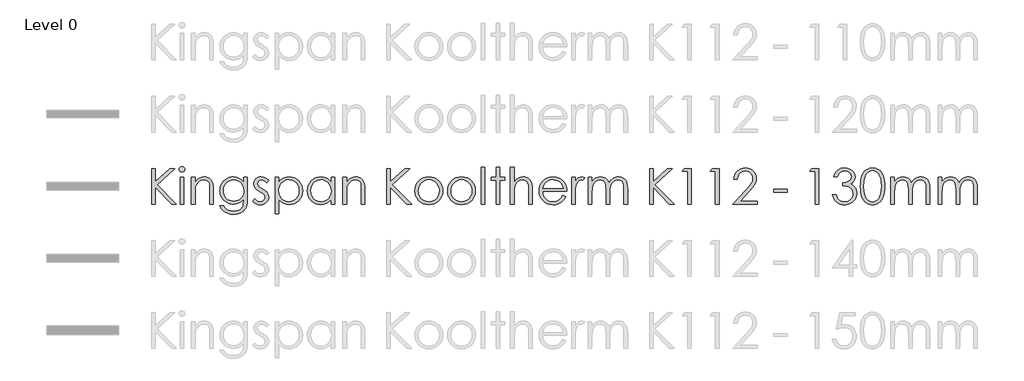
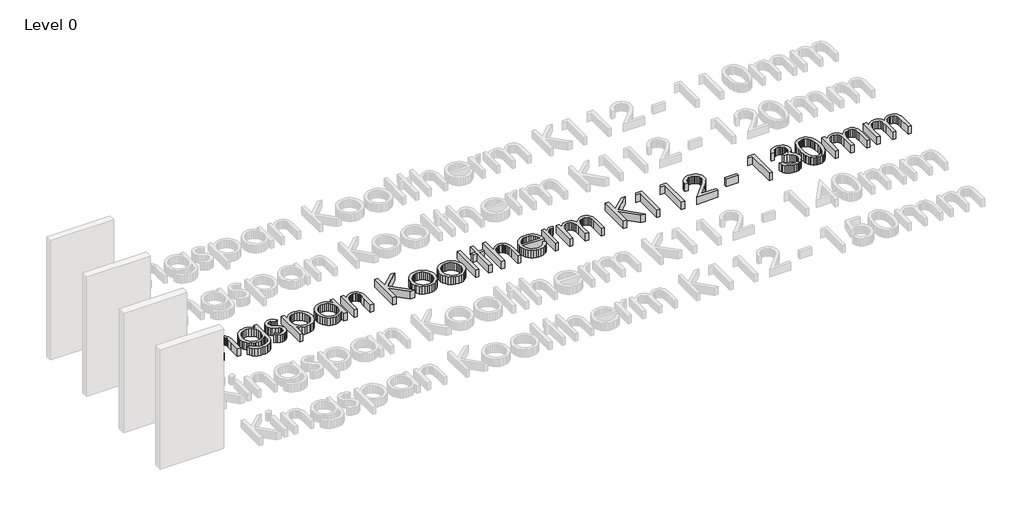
# One storey, part 3 of 14: 1 proxy.
"""IFC4 building model written with IfcOpenShell, lengths in millimetres."""

from ifc_helpers import new_model, si_unit, origin, origin_with_axes, place, context, project, spatial, polyline, outline, extrude, element, save

model = new_model("IFC4")

# Units and contexts
model_context = context("Model", 3, world=origin())
ifc_project = project(units=[si_unit("LENGTHUNIT", "METRE", prefix="MILLI")], contexts=[model_context])

# Site, building, storey
site = spatial("IfcSite", under=ifc_project)
building = spatial("IfcBuilding", under=site)
storey = spatial("IfcBuildingStorey", under=building, Name="Level 0", Elevation=0.0)

# Proxy
placement = place(None, origin())
element("IfcBuildingElementProxy", 1, Name="600mm KI_CenturyGothic", ObjectType="600mm KI_CenturyGothic", at=placement, inside=storey, context=model_context, shape_type="SweptSolid", body=[
    extrude(outline(polyline([(-3852.2663848, -7299.1034017), (-3792.944575, -7299.1034017), (-3792.944575, -7518.316027), (-3555.1938841, -7299.1034017), (-3471.6181051, -7299.1034017), (-3760.9664119, -7566.0515459), (-3441.9572002, -7892.3214999), (-3520.8984627, -7892.3214999), (-3792.944575, -7614.0960325), (-3792.944575, -7892.3214999), (-3852.2663848, -7892.3214999), (-3852.2663848, -7299.1034017)])), origin_with_axes(), (0.0, 0.0, 1.0), 150.0),
    extrude(outline(polyline([(-3348.1854852, -7269.4424967), (-3329.145347, -7272.7252792), (-3313.1176445, -7282.5736265), (-3302.226531, -7297.0178693), (-3298.5961598, -7314.088338), (-3302.226531, -7330.9270809), (-3313.1176445, -7345.2940817), (-3329.145347, -7355.142429), (-3348.1854852, -7358.4252115), (-3366.9938975, -7355.142429), (-3382.9443581, -7345.2940817), (-3393.8354717, -7330.9270809), (-3397.4658428, -7314.088338), (-3393.8354717, -7297.0178693), (-3382.9443581, -7282.5736265), (-3366.9938975, -7272.7252792), (-3348.1854852, -7269.4424967)])), origin_with_axes(), (0.0, 0.0, 1.0), 150.0),
    extrude(outline(polyline([(-3377.6919062, -7447.4079262), (-3318.3700964, -7447.4079262), (-3318.3700964, -7892.3214999), (-3377.6919062, -7892.3214999), (-3377.6919062, -7447.4079262)])), origin_with_axes(), (0.0, 0.0, 1.0), 150.0),
    extrude(outline(polyline([(-3189.8395084, -7447.4079262), (-3130.5176986, -7447.4079262), (-3130.5176986, -7526.5036726), (-3096.9946967, -7486.9944204), (-3060.0730495, -7459.303185), (-3019.7141359, -7442.9665147), (-2975.879335, -7437.5209579), (-2953.4357238, -7439.0995901), (-2932.2955704, -7443.8354865), (-2912.4588747, -7451.7286472), (-2893.9256368, -7462.7790723), (-2877.212412, -7476.5039994), (-2862.835756, -7492.4206667), (-2841.0921499, -7530.8292213), (-2833.6238199, -7555.2087086), (-2828.2892984, -7585.5551357), (-2824.0216812, -7664.1488095), (-2824.0216812, -7892.3214999), (-2883.343491, -7892.3214999), (-2883.343491, -7679.1337458), (-2883.343491, -7576.092998), (-2884.7290183, -7555.2956057), (-2889.8125035, -7537.2403023), (-2898.2849788, -7521.9270877), (-2910.1464442, -7509.355962), (-2924.7403432, -7499.5558909), (-2941.4101193, -7492.5558401), (-2980.977303, -7486.9557994), (-3005.3471351, -7489.1137461), (-3028.4038541, -7495.5875862), (-3050.1474602, -7506.3773197), (-3070.5779533, -7521.4829466), (-3088.6622225, -7539.7651482), (-3103.3671568, -7560.084606), (-3114.6927562, -7582.44132), (-3122.6390208, -7606.8352901), (-3128.5480292, -7653.9142525), (-3130.5176986, -7728.4141035), (-3130.5176986, -7892.3214999), (-3189.8395084, -7892.3214999), (-3189.8395084, -7447.4079262)])), origin_with_axes(), (0.0, 0.0, 1.0), 150.0),
    extrude(outline(polyline([(-2319.7862977, -7447.4079262), (-2260.4644879, -7447.4079262), (-2260.4644879, -7798.395301), (-2264.5196897, -7878.6496765), (-2269.588692, -7909.4499001), (-2276.6852953, -7934.0321474), (-2289.9371156, -7962.6454585), (-2307.2924139, -7987.7732271), (-2328.7511904, -8009.4154531), (-2354.3134448, -8027.5721366), (-2383.3226209, -8041.9343098), (-2415.122162, -8052.1930049), (-2449.7120682, -8058.348222), (-2487.0923395, -8060.3999611), (-2541.0458345, -8056.3833802), (-2589.206184, -8044.3336376), (-2630.260275, -8025.5059147), (-2662.8949946, -8001.1553932), (-2690.2000204, -7967.8061856), (-2715.2650299, -7921.9824048), (-2655.94322, -7921.9824048), (-2642.4355358, -7943.151524), (-2627.0933555, -7961.3951046), (-2609.9166791, -7976.7131468), (-2590.9055067, -7989.1056506), (-2569.7894914, -7998.6691682), (-2546.2982864, -8005.5002523), (-2492.1903075, -8010.9651195), (-2438.5071593, -8005.6354257), (-2415.083541, -7998.9733084), (-2393.93856, -7989.6463441), (-2359.6624492, -7965.6047903), (-2336.8567664, -7936.1176798), (-2329.3884364, -7917.4782342), (-2324.0539149, -7893.7697863), (-2319.7862977, -7831.1458835), (-2319.7862977, -7808.4367532), (-2354.757586, -7844.2190818), (-2396.6420279, -7870.6165148), (-2443.392712, -7886.8952536), (-2492.9627269, -7892.3214999), (-2522.4063889, -7890.4242447), (-2550.9521133, -7884.7324793), (-2578.5999001, -7875.2462036), (-2605.3497494, -7861.9654175), (-2630.1540674, -7845.4742634), (-2651.9652601, -7826.3568832), (-2670.7833277, -7804.6132772), (-2686.6082702, -7780.2434451), (-2699.1456025, -7753.9280817), (-2708.1008399, -7726.3478816), (-2713.4739824, -7697.5028447), (-2715.2650299, -7667.392971), (-2713.3967404, -7637.1044753), (-2707.7918722, -7607.8780563), (-2698.4504251, -7579.713714), (-2685.3723991, -7552.6114483), (-2668.9971079, -7527.4257483), (-2649.7638648, -7505.0111029), (-2627.67267, -7485.367512), (-2602.7235235, -7468.4949758), (-2575.9833294, -7454.943843), (-2548.5189922, -7445.2644624), (-2520.3305117, -7439.456834), (-2491.4178881, -7437.5209579), (-2444.5320306, -7442.4644421), (-2400.8903346, -7457.2948945), (-2359.6045177, -7483.8661218), (-2319.7862977, -7524.0319306), (-2319.7862977, -7447.4079262)]), holes=[polyline([(-2484.1571458, -7486.9557994), (-2529.0154023, -7492.9806707), (-2570.5908765, -7511.0552847), (-2606.2187212, -7539.7699758), (-2633.2340897, -7577.7150788), (-2650.2659375, -7621.9940208), (-2655.94322, -7669.7102292), (-2653.0080263, -7705.6229036), (-2644.2024452, -7738.2817613), (-2629.5264766, -7767.6868023), (-2608.9801206, -7793.8380266), (-2583.7606272, -7815.296803), (-2555.0652466, -7830.6245004), (-2522.8939786, -7839.8211189), (-2487.2468234, -7842.8866584), (-2451.3244937, -7839.845257), (-2419.1001219, -7830.7210528), (-2390.573708, -7815.5140459), (-2365.7452519, -7794.2242363), (-2345.6382095, -7767.9812872), (-2331.2760363, -7737.9148621), (-2322.6587323, -7704.024961), (-2319.7862977, -7666.3115838), (-2325.0773706, -7617.6105407), (-2340.9505892, -7574.3936754), (-2366.4983608, -7538.1672056), (-2400.8130926, -7510.4373492), (-2440.9982119, -7492.8261869), (-2484.1571458, -7486.9557994)])]), origin_with_axes(), (0.0, 0.0, 1.0), 150.0),
    extrude(outline(polyline([(-1904.5336289, -7498.6965743), (-1940.9918246, -7536.390641), (-1962.9575012, -7514.7628978), (-1984.6721416, -7499.3145098), (-2006.1357456, -7490.045477), (-2027.3483133, -7486.9557994), (-2052.181597, -7491.6289368), (-2073.2300256, -7505.6483489), (-2087.5970264, -7525.8857371), (-2092.3860267, -7549.212803), (-2088.4466878, -7570.7633042), (-2076.628671, -7591.2324183), (-2052.0657341, -7613.400855), (-2010.2006027, -7639.122421), (-1958.3326401, -7671.9888664), (-1939.8428507, -7687.8138088), (-1926.315856, -7703.2332311), (-1909.9791857, -7735.9065716), (-1904.5336289, -7772.4420092), (-1906.9474396, -7798.5884059), (-1914.1888714, -7822.6492701), (-1926.2579245, -7844.624602), (-1943.1545989, -7864.5144015), (-1963.6719892, -7881.0055557), (-1986.6031901, -7892.7849515), (-2011.9482016, -7899.852589), (-2039.7070237, -7902.2084682), (-2077.4397114, -7898.3270607), (-2113.3958344, -7886.6828383), (-2145.4512394, -7868.2027042), (-2171.4817731, -7843.8135617), (-2135.7959969, -7803.3387852), (-2114.0041146, -7824.9665283), (-2091.5749863, -7840.4149163), (-2068.5086121, -7849.6839491), (-2044.8049918, -7852.7736267), (-2013.637869, -7847.1349651), (-1987.4914724, -7830.2189802), (-1969.7644472, -7805.6560434), (-1963.8554388, -7777.0765256), (-1967.7561567, -7753.2860081), (-1979.4583106, -7732.2762005), (-2005.0253927, -7710.5712154), (-2050.2119275, -7683.7682622), (-2099.762632, -7653.1032121), (-2117.441381, -7637.9444814), (-2130.3890611, -7622.9016136), (-2146.3781427, -7590.7689666), (-2151.7078365, -7554.310771), (-2149.5305794, -7530.2643896), (-2142.9988078, -7508.3325063), (-2132.1125219, -7488.5151211), (-2116.8717217, -7470.812234), (-2098.309518, -7456.2473007), (-2077.4590218, -7445.8437769), (-2054.3202332, -7439.6016627), (-2028.8931521, -7437.5209579), (-1997.9481, -7441.3444339), (-1966.9064954, -7452.814862), (-1935.7683384, -7471.9322421), (-1904.5336289, -7498.6965743)])), origin_with_axes(), (0.0, 0.0, 1.0), 150.0),
    extrude(outline(polyline([(-1795.7769776, -7447.4079262), (-1736.4551678, -7447.4079262), (-1736.4551678, -7528.5119631), (-1700.9238754, -7488.2689124), (-1660.4490989, -7459.9211205), (-1614.9922173, -7443.1209986), (-1564.5146096, -7437.5209579), (-1520.0618732, -7441.7596094), (-1478.9305402, -7454.4755637), (-1441.1206107, -7475.668821), (-1406.6320845, -7505.3393811), (-1377.9077381, -7540.9768811), (-1357.3903478, -7580.070958), (-1345.0799137, -7622.6216116), (-1340.9764356, -7668.628842), (-1345.0412927, -7715.5291824), (-1357.235864, -7758.7508754), (-1377.5601494, -7798.293921), (-1406.014149, -7834.1583192), (-1440.2130179, -7863.9302594), (-1477.7719111, -7885.1959309), (-1518.6908288, -7897.9553339), (-1562.9697708, -7902.2084682), (-1612.6170277, -7896.743601), (-1658.0545988, -7880.3489992), (-1699.3211052, -7853.1019049), (-1736.4551678, -7815.07956), (-1736.4551678, -8050.5129928), (-1795.7769776, -8050.5129928), (-1795.7769776, -7447.4079262)]), holes=[polyline([(-1568.5311905, -7486.9557994), (-1602.5852307, -7490.2530647), (-1633.8392507, -7500.1448607), (-1662.2932503, -7516.6311872), (-1687.9472295, -7539.7120444), (-1709.1694525, -7567.6977647), (-1724.3281832, -7598.8986808), (-1733.4234216, -7633.3147926), (-1736.4551678, -7670.9461002), (-1731.048232, -7719.8016272), (-1714.8274246, -7763.4819442), (-1688.5265441, -7800.3263495), (-1652.8793888, -7828.6741414), (-1611.4390881, -7846.7487554), (-1567.7587711, -7852.7736267), (-1525.0632888, -7846.7101344), (-1485.0326535, -7828.5196576), (-1450.2544701, -7799.4187567), (-1423.3163435, -7760.6239924), (-1406.05277, -7715.9588407), (-1400.2982454, -7669.2467775), (-1405.9948385, -7622.3029886), (-1423.0846177, -7577.8695627), (-1449.8103289, -7539.5189395), (-1484.414718, -7510.8235589), (-1524.7157001, -7492.9227393), (-1568.5311905, -7486.9557994)])]), origin_with_axes(), (0.0, 0.0, 1.0), 150.0),
    extrude(outline(polyline([(-807.0801472, -7447.4079262), (-807.0801472, -7892.3214999), (-866.401957, -7892.3214999), (-866.401957, -7816.4699149), (-903.4780882, -7854.3184655), (-944.8797679, -7881.0441767), (-990.4525125, -7896.9173953), (-1040.0418379, -7902.2084682), (-1084.3159523, -7897.9553339), (-1125.2203871, -7885.1959309), (-1162.7551422, -7863.9302594), (-1196.9202178, -7834.1583192), (-1225.340424, -7798.293921), (-1245.6405713, -7758.7508754), (-1257.8206597, -7715.5291824), (-1261.8806892, -7668.628842), (-1257.7820388, -7622.6216116), (-1245.4860875, -7580.070958), (-1224.9928353, -7540.9768811), (-1196.3022822, -7505.3393811), (-1161.8475494, -7475.668821), (-1124.061758, -7454.4755637), (-1082.9449079, -7441.7596094), (-1038.4969991, -7437.5209579), (-987.7490446, -7443.1209986), (-942.0990581, -7459.9211205), (-921.2051134, -7472.6081091), (-901.6242816, -7488.2689124), (-866.401957, -7528.5119631), (-866.401957, -7447.4079262), (-807.0801472, -7447.4079262)]), holes=[polyline([(-1034.3259343, -7486.9557994), (-1078.1414247, -7492.9227393), (-1118.4424068, -7510.8235589), (-1153.0467959, -7539.5189395), (-1179.7725071, -7577.8695627), (-1196.8622863, -7622.3029886), (-1202.5588794, -7669.2467775), (-1196.8043548, -7715.9588407), (-1179.5407813, -7760.6239924), (-1152.6026548, -7799.4187567), (-1117.8244713, -7828.5196576), (-1077.6779731, -7846.7101344), (-1034.6349021, -7852.7736267), (-991.0125165, -7846.7487554), (-949.7460102, -7828.6741414), (-914.2726493, -7800.3263495), (-888.0297002, -7763.4819442), (-871.8088928, -7719.8016272), (-866.401957, -7670.9461002), (-869.4337032, -7633.3147926), (-878.5289416, -7598.8986808), (-893.6876723, -7567.6977647), (-914.9098953, -7539.7120444), (-940.5638746, -7516.6311872), (-969.0178742, -7500.1448607), (-1000.2718941, -7490.2530647), (-1034.3259343, -7486.9557994)])]), origin_with_axes(), (0.0, 0.0, 1.0), 150.0),
    extrude(outline(polyline([(-668.662591, -7447.4079262), (-609.3407811, -7447.4079262), (-609.3407811, -7526.5036726), (-575.8177792, -7486.9944204), (-538.896132, -7459.303185), (-498.5372184, -7442.9665147), (-454.7024175, -7437.5209579), (-432.2588064, -7439.0995901), (-411.1186529, -7443.8354865), (-391.2819572, -7451.7286472), (-372.7487193, -7462.7790723), (-356.0354946, -7476.5039994), (-341.6588385, -7492.4206667), (-319.9152324, -7530.8292213), (-312.4469024, -7555.2087086), (-307.1123809, -7585.5551357), (-302.8447637, -7664.1488095), (-302.8447637, -7892.3214999), (-362.1665735, -7892.3214999), (-362.1665735, -7679.1337458), (-362.1665735, -7576.092998), (-363.5521008, -7555.2956057), (-368.635586, -7537.2403023), (-377.1080613, -7521.9270877), (-388.9695267, -7509.355962), (-403.5634257, -7499.5558909), (-420.2332018, -7492.5558401), (-459.8003855, -7486.9557994), (-484.1702176, -7489.1137461), (-507.2269366, -7495.5875862), (-528.9705427, -7506.3773197), (-549.4010358, -7521.4829466), (-567.485305, -7539.7651482), (-582.1902393, -7560.084606), (-593.5158387, -7582.44132), (-601.4621033, -7606.8352901), (-607.3711117, -7653.9142525), (-609.3407811, -7728.4141035), (-609.3407811, -7892.3214999), (-668.662591, -7892.3214999), (-668.662591, -7447.4079262)])), origin_with_axes(), (0.0, 0.0, 1.0), 150.0),
    extrude(outline(polyline([(62.9730635, -7299.1034017), (122.2948734, -7299.1034017), (122.2948734, -7518.316027), (360.0455643, -7299.1034017), (443.6213432, -7299.1034017), (154.2730365, -7566.0515459), (473.2822481, -7892.3214999), (394.3409856, -7892.3214999), (122.2948734, -7614.0960325), (122.2948734, -7892.3214999), (62.9730635, -7892.3214999), (62.9730635, -7299.1034017)])), origin_with_axes(), (0.0, 0.0, 1.0), 150.0),
    extrude(outline(polyline([(760.1588128, -7437.5209579), (809.4681362, -7442.1458191), (854.3553585, -7456.0204025), (894.8204798, -7479.1447083), (930.8635, -7511.5187363), (957.7630055, -7546.7507161), (976.9769381, -7585.091684), (988.5052976, -7626.54164), (992.3480841, -7671.1005841), (988.283227, -7715.9153921), (976.0886558, -7757.8239721), (955.7643703, -7796.8263241), (927.3103707, -7832.9224481), (892.4742558, -7863.2350819), (853.0036246, -7884.8869632), (808.8984769, -7897.8780919), (760.1588128, -7902.2084682), (711.2839754, -7897.8780919), (667.0822753, -7884.8869632), (627.5537126, -7863.2350819), (592.6982872, -7832.9224481), (564.2442876, -7796.8263241), (543.9200022, -7757.8239721), (531.7254309, -7715.9153921), (527.6605738, -7671.1005841), (531.5033603, -7626.7347449), (543.0317198, -7585.4006518), (562.2456524, -7547.0983049), (589.145158, -7511.8277041), (625.2074886, -7479.3185026), (665.7305413, -7456.0976445), (710.7143161, -7442.1651295), (760.1588128, -7437.5209579)]), holes=[polyline([(760.004329, -7486.9557994), (725.7282181, -7490.3303067), (693.9624704, -7500.4538284), (664.7070856, -7517.3263647), (637.962064, -7540.9479154), (615.6584538, -7569.3584664), (599.7273037, -7600.5980035), (590.1686137, -7634.6665266), (586.9823836, -7671.5640357), (592.7948396, -7719.2995546), (610.2322075, -7763.6364281), (637.5758543, -7801.4270471), (673.1071466, -7829.5238028), (714.6439998, -7846.9611707), (760.004329, -7852.7736267), (805.3646581, -7846.9611707), (846.9015113, -7829.5238028), (882.4328037, -7801.4270471), (909.7764504, -7763.6364281), (927.2138183, -7719.2995546), (933.0262743, -7671.5640357), (929.8255614, -7634.6665266), (920.2234227, -7600.5980035), (904.2198583, -7569.3584664), (881.8148681, -7540.9479154), (854.9974321, -7517.3263647), (825.7565303, -7500.4538284), (794.0921625, -7490.3303067), (760.004329, -7486.9557994)])]), origin_with_axes(), (0.0, 0.0, 1.0), 150.0),
    extrude(outline(polyline([(1303.9420695, -7437.5209579), (1353.2513929, -7442.1458191), (1398.1386152, -7456.0204025), (1438.6037365, -7479.1447083), (1474.6467567, -7511.5187363), (1501.5462622, -7546.7507161), (1520.7601948, -7585.091684), (1532.2885543, -7626.54164), (1536.1313408, -7671.1005841), (1532.0664837, -7715.9153921), (1519.8719125, -7757.8239721), (1499.547627, -7796.8263241), (1471.0936274, -7832.9224481), (1436.2575126, -7863.2350819), (1396.7868813, -7884.8869632), (1352.6817336, -7897.8780919), (1303.9420695, -7902.2084682), (1255.0672321, -7897.8780919), (1210.865532, -7884.8869632), (1171.3369693, -7863.2350819), (1136.4815439, -7832.9224481), (1108.0275443, -7796.8263241), (1087.7032589, -7757.8239721), (1075.5086876, -7715.9153921), (1071.4438305, -7671.1005841), (1075.286617, -7626.7347449), (1086.8149766, -7585.4006518), (1106.0289091, -7547.0983049), (1132.9284147, -7511.8277041), (1168.9907453, -7479.3185026), (1209.5137981, -7456.0976445), (1254.4975728, -7442.1651295), (1303.9420695, -7437.5209579)]), holes=[polyline([(1303.7875857, -7486.9557994), (1269.5114748, -7490.3303067), (1237.7457271, -7500.4538284), (1208.4903423, -7517.3263647), (1181.7453207, -7540.9479154), (1159.4417105, -7569.3584664), (1143.5105604, -7600.5980035), (1133.9518704, -7634.6665266), (1130.7656404, -7671.5640357), (1136.5780963, -7719.2995546), (1154.0154643, -7763.6364281), (1181.359111, -7801.4270471), (1216.8904033, -7829.5238028), (1258.4272565, -7846.9611707), (1303.7875857, -7852.7736267), (1349.1479149, -7846.9611707), (1390.684768, -7829.5238028), (1426.2160604, -7801.4270471), (1453.5597071, -7763.6364281), (1470.997075, -7719.2995546), (1476.809531, -7671.5640357), (1473.6088181, -7634.6665266), (1464.0066795, -7600.5980035), (1448.003115, -7569.3584664), (1425.5981249, -7540.9479154), (1398.7806889, -7517.3263647), (1369.539787, -7500.4538284), (1337.8754193, -7490.3303067), (1303.7875857, -7486.9557994)])]), origin_with_axes(), (0.0, 0.0, 1.0), 150.0),
    extrude(outline(polyline([(1635.0010238, -7279.3294651), (1694.3228337, -7279.3294651), (1694.3228337, -7892.3214999), (1635.0010238, -7892.3214999), (1635.0010238, -7279.3294651)])), origin_with_axes(), (0.0, 0.0, 1.0), 150.0),
    extrude(outline(polyline([(1882.1752314, -7279.3294651), (1941.4970413, -7279.3294651), (1941.4970413, -7447.4079262), (2020.5927877, -7447.4079262), (2020.5927877, -7496.8427677), (1941.4970413, -7496.8427677), (1941.4970413, -7892.3214999), (1882.1752314, -7892.3214999), (1882.1752314, -7496.8427677), (1803.079485, -7496.8427677), (1803.079485, -7447.4079262), (1882.1752314, -7447.4079262), (1882.1752314, -7279.3294651)])), origin_with_axes(), (0.0, 0.0, 1.0), 150.0),
    extrude(outline(polyline([(2119.4624707, -7279.3294651), (2178.7842806, -7279.3294651), (2178.7842806, -7528.0485114), (2212.5583188, -7488.3461544), (2249.6151394, -7460.0756044), (2289.9161216, -7443.1596195), (2333.4226442, -7437.5209579), (2355.8662553, -7439.0995901), (2377.0064088, -7443.8354865), (2396.8431044, -7451.7286472), (2415.3763424, -7462.7790723), (2432.0895671, -7476.4895166), (2446.4662232, -7492.3627352), (2468.2098293, -7530.5974955), (2475.6781593, -7554.9045684), (2481.0126808, -7585.2654784), (2485.280298, -7664.1488095), (2485.280298, -7892.3214999), (2425.9584882, -7892.3214999), (2425.9584882, -7679.1337458), (2424.5681332, -7614.752589), (2420.3970685, -7576.092998), (2406.879729, -7537.2403023), (2397.1665551, -7521.9270877), (2385.4837117, -7509.355962), (2371.840854, -7499.5558909), (2356.2476374, -7492.5558401), (2319.2101273, -7486.9557994), (2296.3416854, -7489.1137461), (2274.6994594, -7495.5875862), (2254.2834492, -7506.3773197), (2235.0936547, -7521.4829466), (2218.1052556, -7539.7651482), (2204.2934312, -7560.084606), (2193.6581816, -7582.44132), (2186.1995068, -7606.8352901), (2180.6380871, -7653.6825267), (2178.7842806, -7728.4141035), (2178.7842806, -7892.3214999), (2119.4624707, -7892.3214999), (2119.4624707, -7279.3294651)])), origin_with_axes(), (0.0, 0.0, 1.0), 150.0),
    extrude(outline(polyline([(2991.0605203, -7744.0169753), (3038.950523, -7769.1978477), (3013.3255094, -7811.0822896), (2984.0315038, -7844.0452875), (2950.952643, -7869.1296074), (2913.9730643, -7887.3780157), (2872.4941426, -7898.5008551), (2825.9172528, -7902.2084682), (2774.4258447, -7897.7767119), (2728.8627554, -7884.481443), (2689.227985, -7862.3226615), (2655.5215335, -7831.3003674), (2628.6220279, -7794.6973431), (2609.4080954, -7755.7963712), (2597.8797358, -7714.5974515), (2594.0369493, -7671.1005841), (2597.3197318, -7630.2202874), (2607.1680791, -7591.618628), (2623.5819913, -7555.2956057), (2646.5614684, -7521.2512207), (2682.7493173, -7484.6192308), (2724.5758277, -7458.4535236), (2772.0409998, -7442.7540993), (2825.1448334, -7437.5209579), (2879.7935059, -7442.8892727), (2928.6490329, -7458.9942172), (2971.7114143, -7485.8357913), (3008.9806503, -7523.4139951), (3030.4539096, -7555.585263), (3045.9022976, -7591.541386), (3055.3258143, -7631.2823641), (3058.7244596, -7674.8081972), (2653.3587591, -7674.8081972), (2657.095338, -7712.0629503), (2666.6057518, -7745.8128504), (2681.8900007, -7776.0578975), (2702.9480845, -7802.7980916), (2728.3124066, -7824.6623882), (2756.5153699, -7840.2797429), (2787.5569744, -7849.6501557), (2821.4372203, -7852.7736267), (2854.9602222, -7849.761191), (2887.5563208, -7840.7238841), (2917.2944677, -7826.6851615), (2942.2436143, -7808.668479), (2965.725164, -7782.5027719), (2991.0605203, -7744.0169753)]), holes=[polyline([(2999.4026498, -7625.3733557), (2984.9777175, -7582.8516678), (2965.1844704, -7549.8307385), (2939.0766947, -7524.3022774), (2905.7081767, -7504.257994), (2867.7630738, -7491.2813481), (2827.9255433, -7486.9557994), (2795.503239, -7489.6689226), (2765.4368139, -7497.808292), (2737.726268, -7511.3739077), (2712.3716012, -7530.3657696), (2695.8321708, -7548.179692), (2681.4362043, -7569.9522638), (2669.1837016, -7595.683485), (2659.0746627, -7625.3733557), (2999.4026498, -7625.3733557)])]), origin_with_axes(), (0.0, 0.0, 1.0), 150.0),
    extrude(outline(polyline([(3137.820206, -7447.4079262), (3197.1420159, -7447.4079262), (3197.1420159, -7511.8277041), (3222.6897875, -7478.7874643), (3249.589293, -7455.6728138), (3277.7632906, -7442.0589219), (3307.1345382, -7437.5209579), (3330.4616041, -7441.305813), (3355.3335087, -7452.6603781), (3325.8270877, -7494.6799934), (3297.2475699, -7486.9557994), (3270.8308265, -7492.9034288), (3245.3409863, -7510.7463169), (3223.2884125, -7541.1023993), (3207.183468, -7584.5896114), (3199.6523789, -7642.7141712), (3197.1420159, -7740.1548783), (3197.1420159, -7892.3214999), (3137.820206, -7892.3214999), (3137.820206, -7447.4079262)])), origin_with_axes(), (0.0, 0.0, 1.0), 150.0),
    extrude(outline(polyline([(3414.6553185, -7447.4079262), (3473.9771284, -7447.4079262), (3473.9771284, -7523.5684789), (3503.5607913, -7487.0716623), (3533.9168737, -7461.9294109), (3577.3268439, -7443.6230712), (3622.8995884, -7437.5209579), (3653.7384329, -7440.668567), (3682.9165757, -7450.1113941), (3708.6767627, -7464.7873627), (3729.2617397, -7483.634396), (3746.0425511, -7509.0663047), (3760.3902414, -7543.4968994), (3775.16759, -7519.0981017), (3791.6925376, -7497.808292), (3809.965084, -7479.6274704), (3829.9852293, -7464.5556369), (3851.2798666, -7452.7279648), (3873.375889, -7444.2796277), (3896.2732965, -7439.2106253), (3919.9720892, -7437.5209579), (3962.3006723, -7443.3334139), (3981.4952943, -7450.5989839), (3999.3768034, -7460.7707818), (4015.4914031, -7473.53984), (4029.385297, -7488.5971907), (4050.5109676, -7525.5767694), (4057.8103309, -7548.9521114), (4063.0241619, -7577.5219739), (4067.1952266, -7650.2452603), (4067.1952266, -7892.3214999), (4007.8734168, -7892.3214999), (4007.8734168, -7646.6921311), (4005.4209852, -7585.5744462), (3998.0636904, -7547.1272706), (3984.7587663, -7522.6608861), (3964.4634466, -7503.4855746), (3938.3942919, -7491.0882432), (3907.7678627, -7486.9557994), (3888.1194443, -7488.5054659), (3869.3399976, -7493.1544651), (3834.3880198, -7511.7504621), (3805.6540182, -7540.6968791), (3785.8800816, -7577.9468046), (3779.1889985, -7602.1042213), (3774.4096535, -7633.1747916), (3770.5861775, -7716.0553931), (3770.5861775, -7892.3214999), (3711.2643677, -7892.3214999), (3711.2643677, -7661.9860352), (3708.850557, -7593.530366), (3701.6091252, -7551.2983353), (3688.3621325, -7525.0553863), (3667.9316394, -7504.5669617), (3641.6114484, -7491.35859), (3610.6953619, -7486.9557994), (3573.7544042, -7492.9999812), (3539.2465676, -7511.1325266), (3510.2808401, -7539.499629), (3489.9662099, -7576.2474819), (3477.9743988, -7628.0768236), (3473.9771284, -7701.6883923), (3473.9771284, -7892.3214999), (3414.6553185, -7892.3214999), (3414.6553185, -7447.4079262)])), origin_with_axes(), (0.0, 0.0, 1.0), 150.0),
    extrude(outline(polyline([(4433.0130538, -7299.1034017), (4492.3348637, -7299.1034017), (4492.3348637, -7518.316027), (4730.0855546, -7299.1034017), (4813.6613335, -7299.1034017), (4524.3130268, -7566.0515459), (4843.3222385, -7892.3214999), (4764.3809759, -7892.3214999), (4492.3348637, -7614.0960325), (4492.3348637, -7892.3214999), (4433.0130538, -7892.3214999), (4433.0130538, -7299.1034017)])), origin_with_axes(), (0.0, 0.0, 1.0), 150.0),
    extrude(outline(polyline([(5010.6282802, -7299.1034017), (5125.1008351, -7299.1034017), (5125.1008351, -7892.3214999), (5065.7790253, -7892.3214999), (5065.7790253, -7348.5382432), (4976.7963106, -7348.5382432), (5010.6282802, -7299.1034017)])), origin_with_axes(), (0.0, 0.0, 1.0), 150.0),
    extrude(outline(polyline([(5475.3157905, -7299.1034017), (5589.7883454, -7299.1034017), (5589.7883454, -7892.3214999), (5530.4665356, -7892.3214999), (5530.4665356, -7348.5382432), (5441.4838208, -7348.5382432), (5475.3157905, -7299.1034017)])), origin_with_axes(), (0.0, 0.0, 1.0), 150.0),
    extrude(outline(polyline([(5896.2843628, -7477.0688311), (5836.962553, -7477.0688311), (5841.4474131, -7437.8106152), (5852.5847353, -7402.2213914), (5870.3745196, -7370.3011597), (5894.816766, -7342.0499202), (5924.2121517, -7318.9352697), (5956.8613542, -7302.4248051), (5992.7643733, -7292.5185263), (6031.9212092, -7289.2164334), (6070.3925229, -7292.5136987), (6105.0113948, -7302.4054946), (6135.777825, -7318.8918211), (6162.6918135, -7341.9726783), (6184.5561101, -7369.533568), (6200.1734648, -7399.459992), (6209.5438776, -7431.7519505), (6212.6673485, -7466.4094434), (6206.5845458, -7515.2070389), (6188.3361375, -7560.8763359), (6152.5538088, -7612.763609), (6093.869245, -7680.215133), (5941.084688, -7842.8866584), (6222.5543169, -7842.8866584), (6222.5543169, -7892.3214999), (5817.1886164, -7892.3214999), (6043.1985325, -7651.6356152), (6099.9327373, -7586.1151397), (6132.6446988, -7540.0210121), (6148.1703288, -7502.6552237), (6153.3455387, -7463.3197658), (6151.0958672, -7438.7133804), (6144.3468527, -7415.8739043), (6133.0984952, -7394.8013375), (6117.3507947, -7375.4956802), (6098.3396223, -7359.3762529), (6077.3008489, -7347.8623762), (6054.2344746, -7340.9540502), (6029.1404994, -7338.6512749), (6002.8058255, -7340.9250845), (5978.7980651, -7347.7465133), (5957.1172181, -7359.1155613), (5937.7632845, -7375.0322286), (5921.5279943, -7395.0523738), (5909.2030773, -7418.731856), (5900.7885334, -7446.0706751), (5896.2843628, -7477.0688311)])), origin_with_axes(), (0.0, 0.0, 1.0), 150.0),
    extrude(outline(polyline([(6499.3894294, -7645.1472923), (6726.7897004, -7645.1472923), (6726.7897004, -7694.5821338), (6499.3894294, -7694.5821338), (6499.3894294, -7645.1472923)])), origin_with_axes(), (0.0, 0.0, 1.0), 150.0),
    extrude(outline(polyline([(7136.3264656, -7299.1034017), (7250.7990205, -7299.1034017), (7250.7990205, -7892.3214999), (7191.4772106, -7892.3214999), (7191.4772106, -7348.5382432), (7102.4944959, -7348.5382432), (7136.3264656, -7299.1034017)])), origin_with_axes(), (0.0, 0.0, 1.0), 150.0),
    extrude(outline(polyline([(7557.2950379, -7437.5209579), (7497.9732281, -7437.5209579), (7508.4974424, -7403.8917483), (7522.9223746, -7374.3756721), (7541.2480249, -7348.9727291), (7563.4743931, -7327.6829194), (7588.7421626, -7310.8538318), (7616.192017, -7298.8330549), (7645.8239562, -7291.6205887), (7677.6379802, -7289.2164334), (7723.9252127, -7294.3723328), (7767.0069046, -7309.8400313), (7803.7933785, -7334.0553795), (7831.1949567, -7365.454228), (7848.2268044, -7401.2365567), (7853.904087, -7438.6023451), (7849.2212944, -7474.037085), (7835.1729166, -7505.5711069), (7811.7589536, -7533.2044109), (7778.9794053, -7556.936997), (7816.3645042, -7578.1012885), (7846.3343769, -7607.2987418), (7862.622771, -7631.398227), (7874.2573382, -7656.8880672), (7881.2380785, -7683.7682622), (7883.5649919, -7712.0388122), (7881.8656692, -7736.7031292), (7876.7677012, -7760.7977868), (7868.2710878, -7784.3227851), (7856.3758291, -7807.2781241), (7841.5453766, -7828.6644862), (7824.2431821, -7847.4825538), (7804.4692455, -7863.7323269), (7782.2235668, -7877.4138055), (7758.0468396, -7888.2614704), (7732.4797575, -7896.0098025), (7705.5223205, -7900.6588018), (7677.1745286, -7902.2084682), (7639.6397734, -7899.5387936), (7605.358835, -7891.52977), (7574.3317132, -7878.1813973), (7546.5584082, -7859.4936754), (7522.676166, -7835.6403989), (7503.3222324, -7806.795362), (7488.4966076, -7772.9585647), (7478.1992914, -7734.130007), (7537.5211013, -7734.130007), (7556.5612394, -7784.8779615), (7568.6592583, -7804.169136), (7582.4759103, -7819.4051087), (7602.5395042, -7834.0038353), (7625.190703, -7844.4314972), (7650.4295069, -7850.6880943), (7678.2559157, -7852.7736267), (7709.6161433, -7850.2777465), (7737.7322094, -7842.7901059), (7762.6041141, -7830.310705), (7784.2318572, -7812.8395438), (7801.7368119, -7792.0180133), (7814.2403509, -7769.487505), (7821.7424743, -7745.2480188), (7824.2431821, -7719.2995546), (7819.2417665, -7684.7337865), (7804.2375197, -7652.4080346), (7780.8139014, -7625.0450774), (7750.5543714, -7605.3676933), (7707.6464738, -7592.5648417), (7646.2777526, -7585.8254825), (7646.2777526, -7536.390641), (7688.1621945, -7532.7409593), (7726.0686765, -7521.7919143), (7757.0813154, -7505.2042077), (7778.2842279, -7484.6385412), (7790.5077648, -7461.0797496), (7794.5822772, -7435.5126675), (7792.5208829, -7416.4821845), (7786.3367001, -7398.7841251), (7776.0297287, -7382.4184891), (7761.5999688, -7367.3852765), (7744.0225999, -7354.8141508), (7724.2728014, -7345.8347753), (7702.3505733, -7340.44715), (7678.2559157, -7338.6512749), (7640.2335708, -7344.270626), (7607.7340246, -7361.1286794), (7593.4297829, -7374.3322235), (7580.2552045, -7391.4654513), (7557.2950379, -7437.5209579)])), origin_with_axes(), (0.0, 0.0, 1.0), 150.0),
    extrude(outline(polyline([(7942.8868017, -7595.8669347), (7944.4654339, -7541.4355052), (7949.2013303, -7493.5406748), (7957.094491, -7452.1824436), (7968.1449161, -7417.3608116), (7982.0726034, -7387.7192172), (7998.5975509, -7361.9010988), (8017.7197586, -7339.9064564), (8039.4392266, -7321.73529), (8063.1331916, -7307.5082902), (8088.1788906, -7297.3461475), (8114.5763236, -7291.2488619), (8142.3254905, -7289.2164334), (8170.5284538, -7291.2633448), (8197.3603726, -7297.404079), (8222.8212471, -7307.638636), (8246.9110771, -7321.9670159), (8269.0939967, -7340.3843909), (8288.8341399, -7362.8859335), (8306.1315069, -7389.4716437), (8320.9860974, -7420.1415214), (8332.9151495, -7455.6583309), (8341.435901, -7496.7848363), (8346.5483519, -7543.5210375), (8348.2525022, -7595.8669347), (8346.57249, -7648.0535203), (8341.5324534, -7694.6207548), (8333.1323925, -7735.5686382), (8321.3723071, -7770.8971704), (8306.6625452, -7801.4222195), (8289.4134545, -7827.9596535), (8269.625035, -7850.5094723), (8247.2972868, -7869.071676), (8223.03849, -7883.5690226), (8197.4569251, -7893.9242701), (8170.5525919, -7900.1374187), (8142.3254905, -7902.2084682), (8114.6004617, -7900.2001778), (8088.2754431, -7894.1753064), (8063.3504346, -7884.1338543), (8039.8254363, -7870.0758212), (8018.2507969, -7852.0398282), (7999.1768654, -7830.0644964), (7982.6036417, -7804.1498255), (7968.5311258, -7774.2958158), (7957.311734, -7739.2762513), (7949.2978827, -7697.8649163), (7944.489572, -7650.0618107), (7942.8868017, -7595.8669347)]), holes=[polyline([(8002.2086116, -7595.7124508), (8006.5920916, -7684.038609), (8012.0714418, -7719.0195525), (8019.7425319, -7747.8790723), (8029.5570859, -7772.1185586), (8041.4668275, -7793.2394015), (8055.4717567, -7811.2416011), (8071.5718736, -7826.1251574), (8106.8714401, -7846.1115094), (8125.2743323, -7851.1080973), (8144.179297, -7852.7736267), (8163.171159, -7851.1418907), (8181.525775, -7846.2466828), (8216.3232689, -7826.665851), (8232.0806246, -7811.9898824), (8245.8296899, -7794.0697524), (8257.5704648, -7772.9054608), (8267.3029492, -7748.4970078), (8276.7650868, -7715.1381451), (8283.5237566, -7678.5544313), (8288.9306924, -7595.7124508), (8284.1030711, -7514.1063413), (8278.0685446, -7479.4150551), (8269.6202074, -7448.7982811), (8259.0380616, -7422.135329), (8246.6021093, -7399.3055082), (8232.3123504, -7380.3088186), (8216.168785, -7365.1452603), (8181.1009443, -7345.2747712), (8162.8718465, -7340.307149), (8144.179297, -7338.6512749), (8125.163297, -7340.307149), (8106.7362667, -7345.2747712), (8071.6491155, -7365.1452603), (8055.7034825, -7379.9564022), (8041.7757953, -7397.8958428), (8029.8660536, -7418.9635819), (8019.9742577, -7443.1596195), (8012.2017875, -7472.0143117), (8006.6500231, -7507.0580143), (8002.2086116, -7595.7124508)])]), origin_with_axes(), (0.0, 0.0, 1.0), 150.0),
    extrude(outline(polyline([(8447.1221852, -7447.4079262), (8506.4439951, -7447.4079262), (8506.4439951, -7523.5684789), (8536.027658, -7487.0716623), (8566.3837404, -7461.9294109), (8609.7937106, -7443.6230712), (8655.3664551, -7437.5209579), (8686.2052996, -7440.668567), (8715.3834424, -7450.1113941), (8741.1436294, -7464.7873627), (8761.7286063, -7483.634396), (8778.5094178, -7509.0663047), (8792.8571081, -7543.4968994), (8807.6344567, -7519.0981017), (8824.1594042, -7497.808292), (8842.4319506, -7479.6274704), (8862.4520959, -7464.5556369), (8883.7467332, -7452.7279648), (8905.8427557, -7444.2796277), (8928.7401632, -7439.2106253), (8952.4389559, -7437.5209579), (8994.7675389, -7443.3334139), (9013.962161, -7450.5989839), (9031.8436701, -7460.7707818), (9047.9582698, -7473.53984), (9061.8521637, -7488.5971907), (9082.9778343, -7525.5767694), (9090.2771976, -7548.9521114), (9095.4910285, -7577.5219739), (9099.6620933, -7650.2452603), (9099.6620933, -7892.3214999), (9040.3402835, -7892.3214999), (9040.3402835, -7646.6921311), (9037.8878519, -7585.5744462), (9030.5305571, -7547.1272706), (9017.225633, -7522.6608861), (8996.9303133, -7503.4855746), (8970.8611585, -7491.0882432), (8940.2347294, -7486.9557994), (8920.5863109, -7488.5054659), (8901.8068643, -7493.1544651), (8866.8548865, -7511.7504621), (8838.1208849, -7540.6968791), (8818.3469483, -7577.9468046), (8811.6558652, -7602.1042213), (8806.8765202, -7633.1747916), (8803.0530442, -7716.0553931), (8803.0530442, -7892.3214999), (8743.7312343, -7892.3214999), (8743.7312343, -7661.9860352), (8741.3174237, -7593.530366), (8734.0759919, -7551.2983353), (8720.8289992, -7525.0553863), (8700.3985061, -7504.5669617), (8674.0783151, -7491.35859), (8643.1622286, -7486.9557994), (8606.2212709, -7492.9999812), (8571.7134342, -7511.1325266), (8542.7477068, -7539.499629), (8522.4330766, -7576.2474819), (8510.4412654, -7628.0768236), (8506.4439951, -7701.6883923), (8506.4439951, -7892.3214999), (8447.1221852, -7892.3214999), (8447.1221852, -7447.4079262)])), origin_with_axes(), (0.0, 0.0, 1.0), 150.0),
    extrude(outline(polyline([(9238.0796495, -7447.4079262), (9297.4014594, -7447.4079262), (9297.4014594, -7523.5684789), (9326.9851223, -7487.0716623), (9357.3412047, -7461.9294109), (9400.7511749, -7443.6230712), (9446.3239194, -7437.5209579), (9477.1627639, -7440.668567), (9506.3409067, -7450.1113941), (9532.1010937, -7464.7873627), (9552.6860706, -7483.634396), (9569.4668821, -7509.0663047), (9583.8145724, -7543.4968994), (9598.591921, -7519.0981017), (9615.1168685, -7497.808292), (9633.389415, -7479.6274704), (9653.4095602, -7464.5556369), (9674.7041975, -7452.7279648), (9696.80022, -7444.2796277), (9719.6976275, -7439.2106253), (9743.3964202, -7437.5209579), (9785.7250032, -7443.3334139), (9804.9196253, -7450.5989839), (9822.8011344, -7460.7707818), (9838.9157341, -7473.53984), (9852.809628, -7488.5971907), (9873.9352986, -7525.5767694), (9881.2346619, -7548.9521114), (9886.4484928, -7577.5219739), (9890.6195576, -7650.2452603), (9890.6195576, -7892.3214999), (9831.2977478, -7892.3214999), (9831.2977478, -7646.6921311), (9828.8453162, -7585.5744462), (9821.4880214, -7547.1272706), (9808.1830973, -7522.6608861), (9787.8877776, -7503.4855746), (9761.8186229, -7491.0882432), (9731.1921937, -7486.9557994), (9711.5437752, -7488.5054659), (9692.7643286, -7493.1544651), (9657.8123508, -7511.7504621), (9629.0783492, -7540.6968791), (9609.3044126, -7577.9468046), (9602.6133295, -7602.1042213), (9597.8339845, -7633.1747916), (9594.0105085, -7716.0553931), (9594.0105085, -7892.3214999), (9534.6886987, -7892.3214999), (9534.6886987, -7661.9860352), (9532.274888, -7593.530366), (9525.0334562, -7551.2983353), (9511.7864635, -7525.0553863), (9491.3559704, -7504.5669617), (9465.0357794, -7491.35859), (9434.1196929, -7486.9557994), (9397.1787352, -7492.9999812), (9362.6708986, -7511.1325266), (9333.7051711, -7539.499629), (9313.3905409, -7576.2474819), (9301.3987298, -7628.0768236), (9297.4014594, -7701.6883923), (9297.4014594, -7892.3214999), (9238.0796495, -7892.3214999), (9238.0796495, -7447.4079262)])), origin_with_axes(), (0.0, 0.0, 1.0), 150.0),
])

save(model, "model.ifc")
